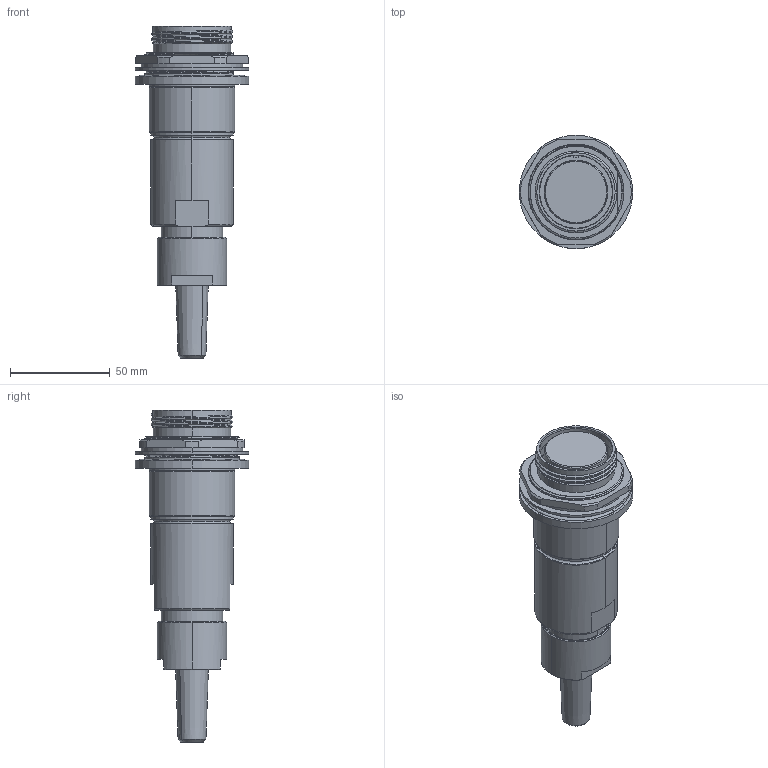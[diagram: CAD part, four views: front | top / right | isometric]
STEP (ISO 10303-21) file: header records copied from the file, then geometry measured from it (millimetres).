
FILE_DESCRIPTION (( 'STEP AP214' ), '1' );
FILE_NAME ('QLINK-RJTX-25XX-SXXX.STEP', '2025-09-30T22:08:36', ( '' ), ( '' ), 'SwSTEP 2.0', 'SolidWorks 2024', '' );
FILE_SCHEMA (( 'AUTOMOTIVE_DESIGN' ));
Length unit declared in the file: inch
Products named in the file (1): QLINK-RJTX-25XX-SXXX
Bounding box: 56.9 x 56.9 x 166.39 mm (x, y, z)
Volume: 170689.1 mm3; surface area: 37176.3 mm2
Topology: 2 solids, 2 shells, 219 faces, 557 edges, 358 vertices
Faces by surface type: cylinder 77, plane 45, cone 43, bspline 32, torus 22
Entity records: 15917 total; most frequent: CARTESIAN_POINT 10980, ORIENTED_EDGE 1114, DIRECTION 951, EDGE_CURVE 557, AXIS2_PLACEMENT_3D 397, VERTEX_POINT 358, EDGE_LOOP 243, FACE_OUTER_BOUND 219
